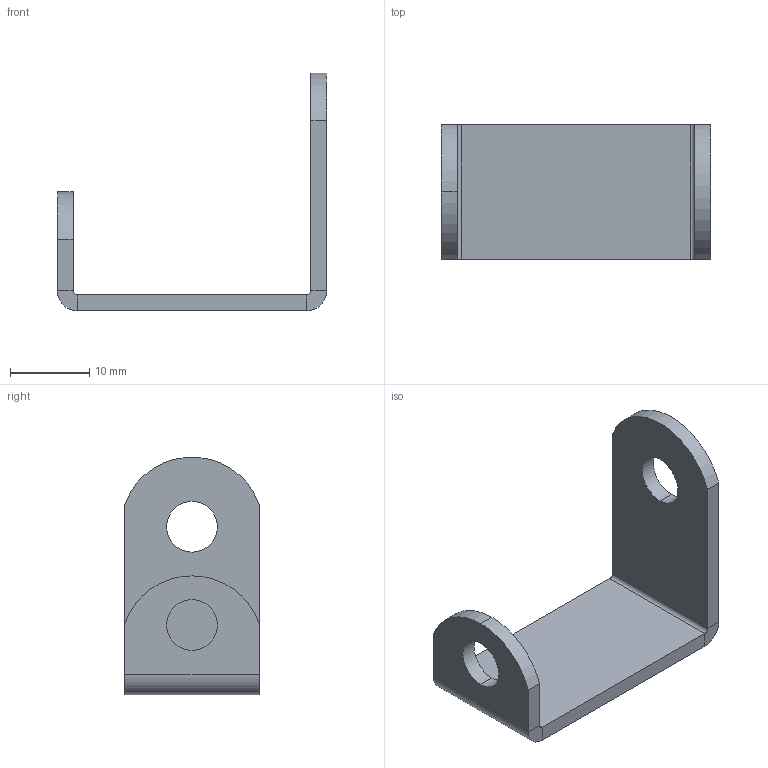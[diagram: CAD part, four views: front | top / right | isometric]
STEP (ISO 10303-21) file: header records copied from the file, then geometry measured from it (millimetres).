
FILE_DESCRIPTION (( 'STEP AP214' ), '1' );
FILE_NAME ('1C.906.001.STEP', '2016-08-18T06:30:39', ( 'RST-Dolba' ), ( '' ), 'SwSTEP 2.0', 'SolidWorks 2015', '' );
FILE_SCHEMA (( 'AUTOMOTIVE_DESIGN' ));
Length unit declared in the file: millimetre
Products named in the file (1): 1C.906.001
Bounding box: 34 x 17 x 29.97 mm (x, y, z)
Volume: 2267 mm3; surface area: 2683 mm2
Topology: 1 solids, 1 shells, 27 faces, 59 edges, 34 vertices
Faces by surface type: plane 16, cylinder 11
Entity records: 769 total; most frequent: DIRECTION 137, CARTESIAN_POINT 121, ORIENTED_EDGE 118, EDGE_CURVE 59, AXIS2_PLACEMENT_3D 50, LINE 37, VECTOR 37, VERTEX_POINT 34
